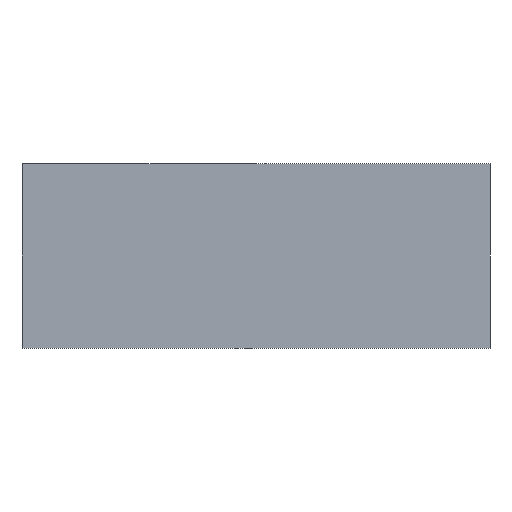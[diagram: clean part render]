
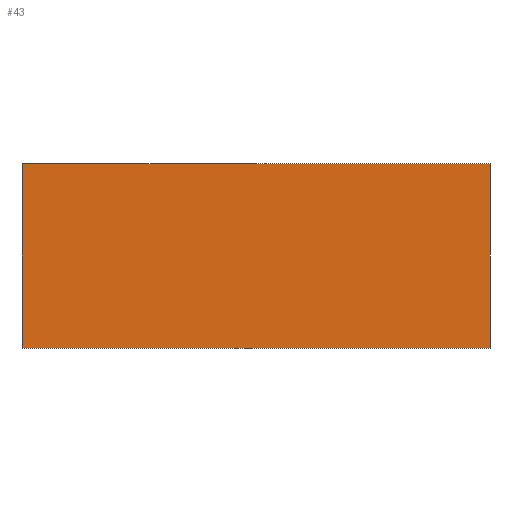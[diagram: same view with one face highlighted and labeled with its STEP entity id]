
A CAD part, left-side view. The second image highlights one B-rep face of the part: STEP entity #43.
In plain terms, the highlighted planar face has unit normal (-1, 0, 0).
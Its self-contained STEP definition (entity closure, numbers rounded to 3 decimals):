
#43 = ADVANCED_FACE('',(#44),#78,.F.);
#44 = FACE_BOUND('',#45,.F.);
#45 = EDGE_LOOP('',(#46,#56,#64,#72));
#46 = ORIENTED_EDGE('',*,*,#47,.F.);
#47 = EDGE_CURVE('',#48,#50,#52,.T.);
#48 = VERTEX_POINT('',#49);
#49 = CARTESIAN_POINT('',(-10.7,-7.6,0.));
#50 = VERTEX_POINT('',#51);
#51 = CARTESIAN_POINT('',(-10.7,-7.6,6.));
#52 = LINE('',#53,#54);
#53 = CARTESIAN_POINT('',(-10.7,-7.6,0.));
#54 = VECTOR('',#55,1.);
#55 = DIRECTION('',(0.,0.,1.));
#56 = ORIENTED_EDGE('',*,*,#57,.T.);
#57 = EDGE_CURVE('',#48,#58,#60,.T.);
#58 = VERTEX_POINT('',#59);
#59 = CARTESIAN_POINT('',(-10.7,7.6,0.));
#60 = LINE('',#61,#62);
#61 = CARTESIAN_POINT('',(-10.7,-7.6,0.));
#62 = VECTOR('',#63,1.);
#63 = DIRECTION('',(-0.,1.,0.));
#64 = ORIENTED_EDGE('',*,*,#65,.T.);
#65 = EDGE_CURVE('',#58,#66,#68,.T.);
#66 = VERTEX_POINT('',#67);
#67 = CARTESIAN_POINT('',(-10.7,7.6,6.));
#68 = LINE('',#69,#70);
#69 = CARTESIAN_POINT('',(-10.7,7.6,0.));
#70 = VECTOR('',#71,1.);
#71 = DIRECTION('',(0.,0.,1.));
#72 = ORIENTED_EDGE('',*,*,#73,.F.);
#73 = EDGE_CURVE('',#50,#66,#74,.T.);
#74 = LINE('',#75,#76);
#75 = CARTESIAN_POINT('',(-10.7,-7.6,6.));
#76 = VECTOR('',#77,1.);
#77 = DIRECTION('',(-0.,1.,0.));
#78 = PLANE('',#79);
#79 = AXIS2_PLACEMENT_3D('',#80,#81,#82);
#80 = CARTESIAN_POINT('',(-10.7,-7.6,0.));
#81 = DIRECTION('',(1.,0.,-0.));
#82 = DIRECTION('',(0.,0.,1.));
